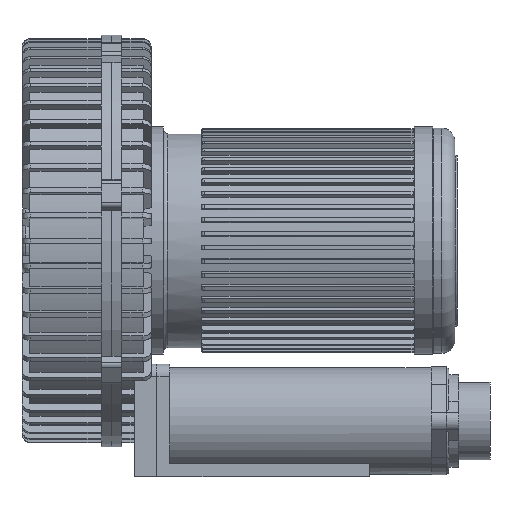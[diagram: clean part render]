
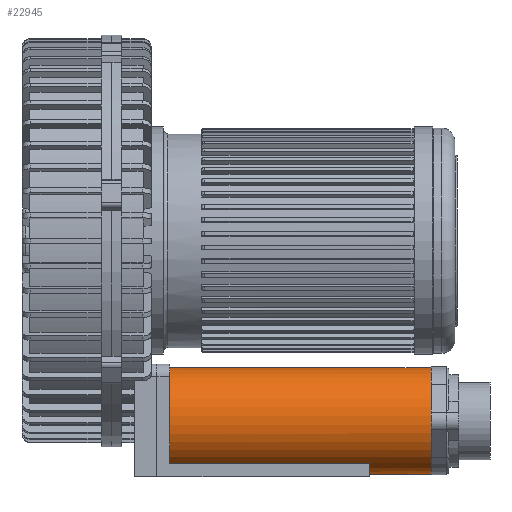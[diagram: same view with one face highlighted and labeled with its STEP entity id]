
A CAD part, left-side view. The second image highlights one B-rep face of the part: STEP entity #22945.
In plain terms, the highlighted cylindrical face has radius 61.88 mm (diameter 123.759 mm), a partial arc.
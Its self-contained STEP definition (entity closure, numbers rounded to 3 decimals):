
#3142=LINE('',#42728,#4896);
#3143=LINE('',#42730,#4897);
#3144=LINE('',#42734,#4898);
#3145=LINE('',#42738,#4899);
#3146=LINE('',#42742,#4900);
#3147=LINE('',#42743,#4901);
#3148=LINE('',#42747,#4902);
#4896=VECTOR('',#30513,1000.);
#4897=VECTOR('',#30514,1000.);
#4898=VECTOR('',#30517,1000.);
#4899=VECTOR('',#30520,1000.);
#4900=VECTOR('',#30523,1000.);
#4901=VECTOR('',#30524,1000.);
#4902=VECTOR('',#30527,1000.);
#11395=ORIENTED_EDGE('',*,*,#15260,.F.);
#11396=ORIENTED_EDGE('',*,*,#15233,.T.);
#11397=ORIENTED_EDGE('',*,*,#15261,.F.);
#11398=ORIENTED_EDGE('',*,*,#15262,.F.);
#11399=ORIENTED_EDGE('',*,*,#15263,.F.);
#11400=ORIENTED_EDGE('',*,*,#15264,.T.);
#11401=ORIENTED_EDGE('',*,*,#15265,.F.);
#11402=ORIENTED_EDGE('',*,*,#15266,.F.);
#11403=ORIENTED_EDGE('',*,*,#15267,.F.);
#11404=ORIENTED_EDGE('',*,*,#15253,.T.);
#11405=ORIENTED_EDGE('',*,*,#15268,.F.);
#11406=ORIENTED_EDGE('',*,*,#15269,.F.);
#11407=ORIENTED_EDGE('',*,*,#15270,.T.);
#11408=ORIENTED_EDGE('',*,*,#15271,.F.);
#15233=EDGE_CURVE('',#17692,#17691,#18794,.T.);
#15253=EDGE_CURVE('',#17708,#17707,#18800,.T.);
#15260=EDGE_CURVE('',#17692,#17713,#3142,.T.);
#15261=EDGE_CURVE('',#17714,#17691,#3143,.F.);
#15262=EDGE_CURVE('',#17715,#17714,#18804,.T.);
#15263=EDGE_CURVE('',#17716,#17715,#3144,.T.);
#15264=EDGE_CURVE('',#17716,#17717,#18805,.T.);
#15265=EDGE_CURVE('',#17718,#17717,#3145,.F.);
#15266=EDGE_CURVE('',#17719,#17718,#18806,.T.);
#15267=EDGE_CURVE('',#17708,#17719,#3146,.T.);
#15268=EDGE_CURVE('',#17720,#17707,#3147,.F.);
#15269=EDGE_CURVE('',#17721,#17720,#18807,.T.);
#15270=EDGE_CURVE('',#17721,#17722,#3148,.T.);
#15271=EDGE_CURVE('',#17713,#17722,#18808,.T.);
#17691=VERTEX_POINT('',#42672);
#17692=VERTEX_POINT('',#42674);
#17707=VERTEX_POINT('',#42713);
#17708=VERTEX_POINT('',#42715);
#17713=VERTEX_POINT('',#42729);
#17714=VERTEX_POINT('',#42731);
#17715=VERTEX_POINT('',#42733);
#17716=VERTEX_POINT('',#42735);
#17717=VERTEX_POINT('',#42737);
#17718=VERTEX_POINT('',#42739);
#17719=VERTEX_POINT('',#42741);
#17720=VERTEX_POINT('',#42744);
#17721=VERTEX_POINT('',#42746);
#17722=VERTEX_POINT('',#42748);
#18794=CIRCLE('',#24936,61.88);
#18800=CIRCLE('',#24947,61.88);
#18804=CIRCLE('',#24953,61.88);
#18805=CIRCLE('',#24954,61.88);
#18806=CIRCLE('',#24955,61.88);
#18807=CIRCLE('',#24956,61.88);
#18808=CIRCLE('',#24957,61.88);
#20038=EDGE_LOOP('',(#11395,#11396,#11397,#11398,#11399,#11400,#11401,#11402,
#11403,#11404,#11405,#11406,#11407,#11408));
#21313=FACE_BOUND('',#20038,.T.);
#21816=CYLINDRICAL_SURFACE('',#24952,61.88);
#22945=ADVANCED_FACE('',(#21313),#21816,.T.);
#24936=AXIS2_PLACEMENT_3D('',#42673,#30462,#30463);
#24947=AXIS2_PLACEMENT_3D('',#42714,#30498,#30499);
#24952=AXIS2_PLACEMENT_3D('',#42727,#30511,#30512);
#24953=AXIS2_PLACEMENT_3D('',#42732,#30515,#30516);
#24954=AXIS2_PLACEMENT_3D('',#42736,#30518,#30519);
#24955=AXIS2_PLACEMENT_3D('',#42740,#30521,#30522);
#24956=AXIS2_PLACEMENT_3D('',#42745,#30525,#30526);
#24957=AXIS2_PLACEMENT_3D('',#42749,#30528,#30529);
#30462=DIRECTION('',(0.,-1.,0.));
#30463=DIRECTION('',(-1.,0.,0.));
#30498=DIRECTION('',(0.,-1.,0.));
#30499=DIRECTION('',(1.,0.,0.));
#30511=DIRECTION('',(0.,-1.,0.));
#30512=DIRECTION('',(1.,0.,0.));
#30513=DIRECTION('',(0.,-1.,0.));
#30514=DIRECTION('',(0.,-1.,0.));
#30515=DIRECTION('',(0.,-1.,0.));
#30516=DIRECTION('',(1.,0.,0.));
#30517=DIRECTION('',(0.,-1.,0.));
#30518=DIRECTION('',(0.,1.,0.));
#30519=DIRECTION('',(0.,0.,1.));
#30520=DIRECTION('',(0.,-1.,0.));
#30521=DIRECTION('',(0.,-1.,0.));
#30522=DIRECTION('',(1.,0.,0.));
#30523=DIRECTION('',(0.,-1.,0.));
#30524=DIRECTION('',(0.,-1.,0.));
#30525=DIRECTION('',(0.,1.,0.));
#30526=DIRECTION('',(-1.,0.,0.));
#30527=DIRECTION('',(0.,-1.,0.));
#30528=DIRECTION('',(0.,1.,0.));
#30529=DIRECTION('',(-1.,0.,0.));
#42672=CARTESIAN_POINT('',(-9.556,-130.591,-237.478));
#42673=CARTESIAN_POINT('',(-65.,-130.591,-210.));
#42674=CARTESIAN_POINT('',(-24.515,-130.591,-256.798));
#42713=CARTESIAN_POINT('',(-63.014,-156.971,-148.152));
#42714=CARTESIAN_POINT('',(-65.,-156.971,-210.));
#42715=CARTESIAN_POINT('',(-11.027,-156.971,-179.735));
#42727=CARTESIAN_POINT('',(-65.,-476.333,-210.));
#42728=CARTESIAN_POINT('',(-24.515,-476.333,-256.798));
#42729=CARTESIAN_POINT('',(-24.515,-404.971,-256.798));
#42730=CARTESIAN_POINT('',(-9.556,-485.15,-237.478));
#42731=CARTESIAN_POINT('',(-9.556,-493.966,-237.478));
#42732=CARTESIAN_POINT('',(-65.,-493.966,-210.));
#42733=CARTESIAN_POINT('',(-65.042,-493.966,-271.88));
#42734=CARTESIAN_POINT('',(-65.042,-485.15,-271.88));
#42735=CARTESIAN_POINT('',(-65.042,-476.333,-271.88));
#42736=CARTESIAN_POINT('',(-65.,-476.333,-210.));
#42737=CARTESIAN_POINT('',(-63.014,-476.333,-148.152));
#42738=CARTESIAN_POINT('',(-63.014,-485.15,-148.152));
#42739=CARTESIAN_POINT('',(-63.014,-493.966,-148.152));
#42740=CARTESIAN_POINT('',(-65.,-493.966,-210.));
#42741=CARTESIAN_POINT('',(-11.027,-493.966,-179.735));
#42742=CARTESIAN_POINT('',(-11.027,-485.15,-179.735));
#42743=CARTESIAN_POINT('',(-63.014,-164.471,-148.152));
#42744=CARTESIAN_POINT('',(-63.014,-171.971,-148.152));
#42745=CARTESIAN_POINT('',(-65.,-171.971,-210.));
#42746=CARTESIAN_POINT('',(-102.79,-171.971,-259.));
#42747=CARTESIAN_POINT('',(-102.79,-476.333,-259.));
#42748=CARTESIAN_POINT('',(-102.79,-404.971,-259.));
#42749=CARTESIAN_POINT('',(-65.,-404.971,-210.));
